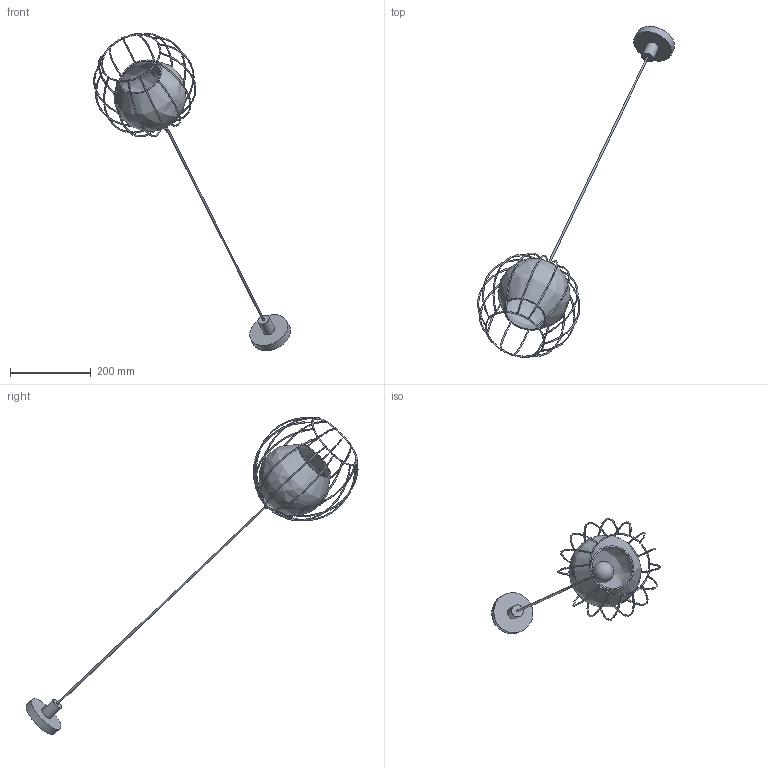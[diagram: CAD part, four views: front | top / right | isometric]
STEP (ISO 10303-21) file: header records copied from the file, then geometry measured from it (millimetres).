
FILE_DESCRIPTION(/* description */ (''),/* implementation_level */ '2;1');
FILE_NAME(/* name */ 'D:\TK Lighting\Universo\Universo 3154.stp',/* time_stamp */ '2020-12-18T09:38:45+01:00',/* author */ ('Admin'),/* organization */ (''),/* preprocessor_version */ 'ST-DEVELOPER v16.5',/* originating_system */ 'Autodesk Inventor 2017',/* authorisation */ '');
FILE_SCHEMA (('AUTOMOTIVE_DESIGN { 1 0 10303 214 3 1 1 }'));
Products named in the file (5): Universo 3154; ażur; Klosz; Zarowka; Zawiesie 3154
Assembly tree (4 placements, depth 2):
  Universo 3154
    ażur
    Klosz
    Zarowka
    Zawiesie 3154
Bounding box: 487.89 x 822.25 x 786.19 mm (x, y, z)
Volume: 446332.9 mm3; surface area: 297426 mm2
Topology: 6 solids, 6 shells, 83 faces, 196 edges, 127 vertices
Faces by surface type: plane 47, torus 17, cylinder 13, bspline 4, sphere 2
Full cylindrical faces by diameter (mm): 5 x1, 8 x4, 26 x1, 30 x4, 32 x2, 100 x1
Entity records: 3659 total; most frequent: CARTESIAN_POINT 1728, DIRECTION 382, ORIENTED_EDGE 288, AXIS2_PLACEMENT_3D 191, EDGE_LOOP 149, EDGE_CURVE 143, VERTEX_POINT 106, CIRCLE 86
